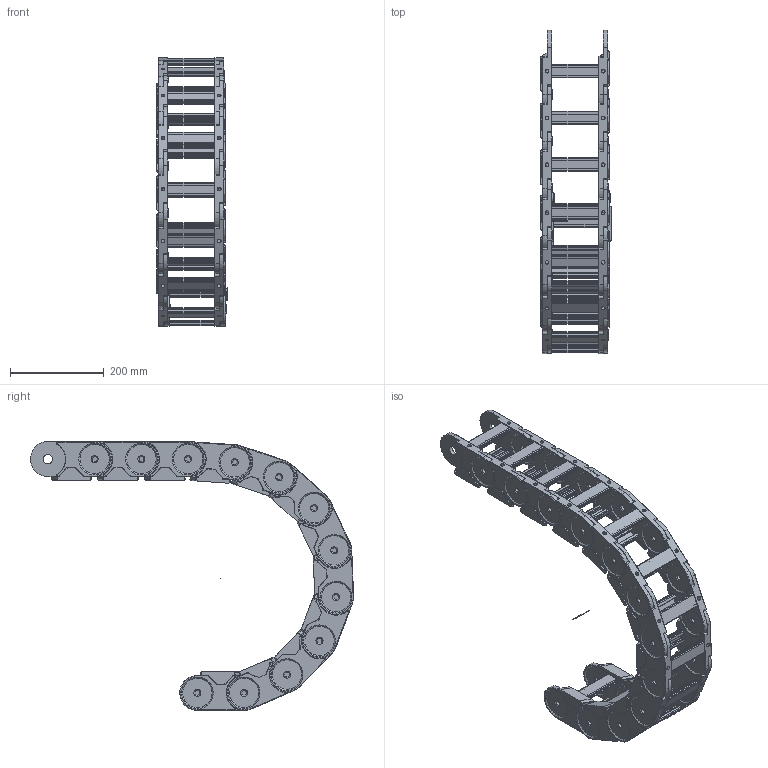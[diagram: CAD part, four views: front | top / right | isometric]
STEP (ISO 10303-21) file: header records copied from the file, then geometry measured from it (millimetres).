
FILE_DESCRIPTION((''),'2;1');
FILE_NAME('C:\Uebbing\TRACE PARTS\PLE\PLE 328\PLE 328 vereinfacht.stp','2013-05-29T15:54:27',('Uebbing'),(''),'Autodesk Inventor 10','Autodesk Inventor 10','');
FILE_SCHEMA(('AUTOMOTIVE_DESIGN { 1 0 10303 214 1 1 1 1 }'));
Length unit declared in the file: millimetre
Products named in the file (3): PLE 328 vereinfacht; Achse; PLE 328 Glied vereinfacht
Assembly tree (13 placements, depth 2):
  PLE 328 vereinfacht
    Achse
    PLE 328 Glied vereinfacht  x12
Bounding box: 149.76 x 691.28 x 575 mm (x, y, z)
Volume: 3823138.2 mm3; surface area: 1193033.4 mm2
Topology: 13 solids, 109 shells, 3123 faces, 7852 edges, 4947 vertices
Faces by surface type: cylinder 1369, plane 1154, torus 384, cone 168, bspline 48
Full cylindrical faces by diameter (mm): 1 x1, 5.6 x24, 7.8 x96, 8 x120, 11 x24, 19.9 x24, 20.2 x24
Entity records: 7935 total; most frequent: CARTESIAN_POINT 1509, DIRECTION 1414, ORIENTED_EDGE 1204, EDGE_CURVE 602, AXIS2_PLACEMENT_3D 553, VERTEX_POINT 408, EDGE_LOOP 338, VECTOR 308
